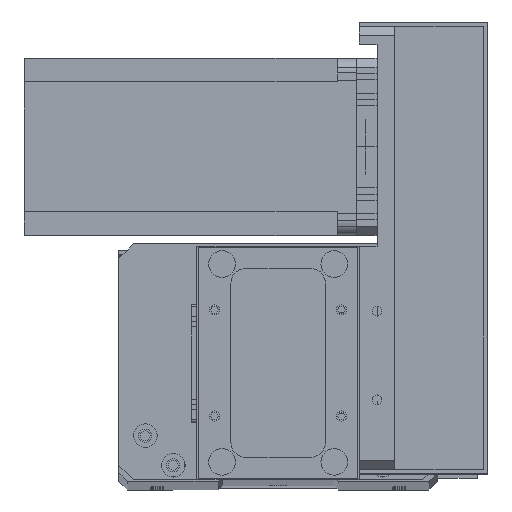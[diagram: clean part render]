
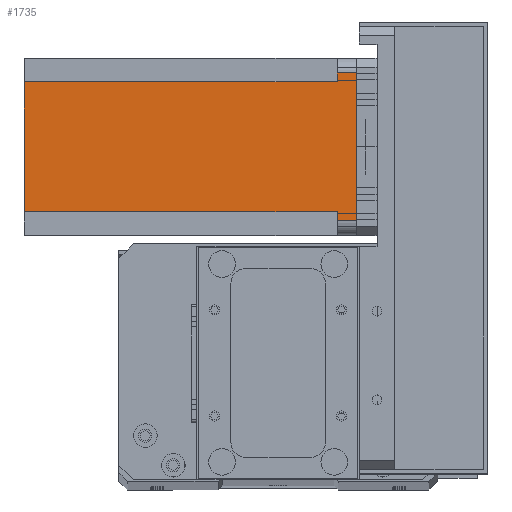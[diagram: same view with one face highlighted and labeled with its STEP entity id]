
A CAD part, top view. The second image highlights one B-rep face of the part: STEP entity #1735.
In plain terms, the highlighted planar face has unit normal (0, 0, 1) as drawn and (0, 1, 0) by its records, which use the part's own axes.
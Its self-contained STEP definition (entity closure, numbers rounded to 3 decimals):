
#134 = LINE ( 'NONE', #2228, #25614 ) ;
#472 = LINE ( 'NONE', #23744, #12802 ) ;
#491 = FACE_OUTER_BOUND ( 'NONE', #2744, .T. ) ;
#743 = DIRECTION ( 'NONE',  ( 0., 0., 1. ) ) ;
#1418 = DIRECTION ( 'NONE',  ( -1., 0., 0. ) ) ;
#1735 = ADVANCED_FACE ( 'NONE', ( #491 ), #4450, .T. ) ;
#1885 = CARTESIAN_POINT ( 'NONE',  ( 0., 60., -112.5 ) ) ;
#2064 = CARTESIAN_POINT ( 'NONE',  ( 5., 60., 0. ) ) ;
#2228 = CARTESIAN_POINT ( 'NONE',  ( 52., 60., -112.5 ) ) ;
#2744 = EDGE_LOOP ( 'NONE', ( #20115, #15875, #18812, #25920, #8343, #14647, #12268, #21726 ) ) ;
#3988 = DIRECTION ( 'NONE',  ( 0., 0., -1. ) ) ;
#4085 = CARTESIAN_POINT ( 'NONE',  ( 55., 60., 0. ) ) ;
#4353 = LINE ( 'NONE', #13035, #29835 ) ;
#4450 = PLANE ( 'NONE',  #24249 ) ;
#4581 = LINE ( 'NONE', #1885, #22729 ) ;
#4672 = EDGE_CURVE ( 'NONE', #31043, #13295, #5568, .T. ) ;
#5568 = LINE ( 'NONE', #8056, #12137 ) ;
#6246 = VERTEX_POINT ( 'NONE', #26839 ) ;
#6422 = CARTESIAN_POINT ( 'NONE',  ( 8., 60., -112.5 ) ) ;
#6469 = LINE ( 'NONE', #24189, #31957 ) ;
#6940 = DIRECTION ( 'NONE',  ( 0., 1., 0. ) ) ;
#7070 = LINE ( 'NONE', #6422, #19413 ) ;
#7332 = EDGE_CURVE ( 'NONE', #23354, #13295, #472, .T. ) ;
#7489 = CARTESIAN_POINT ( 'NONE',  ( 8., 60., -6.5 ) ) ;
#8056 = CARTESIAN_POINT ( 'NONE',  ( 52., 60., -6.5 ) ) ;
#8343 = ORIENTED_EDGE ( 'NONE', *, *, #11536, .T. ) ;
#9343 = CARTESIAN_POINT ( 'NONE',  ( 8., 60., -112.5 ) ) ;
#11536 = EDGE_CURVE ( 'NONE', #31423, #26327, #4581, .T. ) ;
#12108 = DIRECTION ( 'NONE',  ( 0., 0., 1. ) ) ;
#12137 = VECTOR ( 'NONE', #20324, 1000. ) ;
#12263 = VERTEX_POINT ( 'NONE', #2064 ) ;
#12268 = ORIENTED_EDGE ( 'NONE', *, *, #14095, .T. ) ;
#12529 = CARTESIAN_POINT ( 'NONE',  ( 55., 60., -6.5 ) ) ;
#12802 = VECTOR ( 'NONE', #3988, 1000. ) ;
#13035 = CARTESIAN_POINT ( 'NONE',  ( 5., 60., -112.5 ) ) ;
#13295 = VERTEX_POINT ( 'NONE', #12529 ) ;
#14095 = EDGE_CURVE ( 'NONE', #31122, #6246, #26862, .T. ) ;
#14647 = ORIENTED_EDGE ( 'NONE', *, *, #24431, .F. ) ;
#14678 = CARTESIAN_POINT ( 'NONE',  ( 52., 60., -6.5 ) ) ;
#15350 = EDGE_CURVE ( 'NONE', #6246, #12263, #4353, .T. ) ;
#15875 = ORIENTED_EDGE ( 'NONE', *, *, #7332, .T. ) ;
#16149 = CARTESIAN_POINT ( 'NONE',  ( 8., 60., -6.5 ) ) ;
#16632 = DIRECTION ( 'NONE',  ( -1., 0., 0. ) ) ;
#16843 = DIRECTION ( 'NONE',  ( -1., 0., 0. ) ) ;
#18812 = ORIENTED_EDGE ( 'NONE', *, *, #4672, .F. ) ;
#19413 = VECTOR ( 'NONE', #23703, 1000. ) ;
#20115 = ORIENTED_EDGE ( 'NONE', *, *, #22788, .F. ) ;
#20324 = DIRECTION ( 'NONE',  ( 1., 0., 0. ) ) ;
#21707 = CARTESIAN_POINT ( 'NONE',  ( 0., 60., -112.5 ) ) ;
#21726 = ORIENTED_EDGE ( 'NONE', *, *, #15350, .T. ) ;
#22729 = VECTOR ( 'NONE', #16632, 1000. ) ;
#22788 = EDGE_CURVE ( 'NONE', #23354, #12263, #6469, .T. ) ;
#23354 = VERTEX_POINT ( 'NONE', #4085 ) ;
#23703 = DIRECTION ( 'NONE',  ( 0., 0., -1. ) ) ;
#23744 = CARTESIAN_POINT ( 'NONE',  ( 55., 60., -112.5 ) ) ;
#24160 = EDGE_CURVE ( 'NONE', #31423, #31043, #134, .T. ) ;
#24189 = CARTESIAN_POINT ( 'NONE',  ( 0., 60., 0. ) ) ;
#24204 = DIRECTION ( 'NONE',  ( 0., 0., 1. ) ) ;
#24249 = AXIS2_PLACEMENT_3D ( 'NONE', #21707, #6940, #24204 ) ;
#24431 = EDGE_CURVE ( 'NONE', #31122, #26327, #7070, .T. ) ;
#25306 = VECTOR ( 'NONE', #1418, 1000. ) ;
#25614 = VECTOR ( 'NONE', #12108, 1000. ) ;
#25920 = ORIENTED_EDGE ( 'NONE', *, *, #24160, .F. ) ;
#26327 = VERTEX_POINT ( 'NONE', #9343 ) ;
#26839 = CARTESIAN_POINT ( 'NONE',  ( 5., 60., -6.5 ) ) ;
#26862 = LINE ( 'NONE', #16149, #25306 ) ;
#29835 = VECTOR ( 'NONE', #743, 1000. ) ;
#30844 = CARTESIAN_POINT ( 'NONE',  ( 52., 60., -112.5 ) ) ;
#31043 = VERTEX_POINT ( 'NONE', #14678 ) ;
#31122 = VERTEX_POINT ( 'NONE', #7489 ) ;
#31423 = VERTEX_POINT ( 'NONE', #30844 ) ;
#31957 = VECTOR ( 'NONE', #16843, 1000. ) ;
